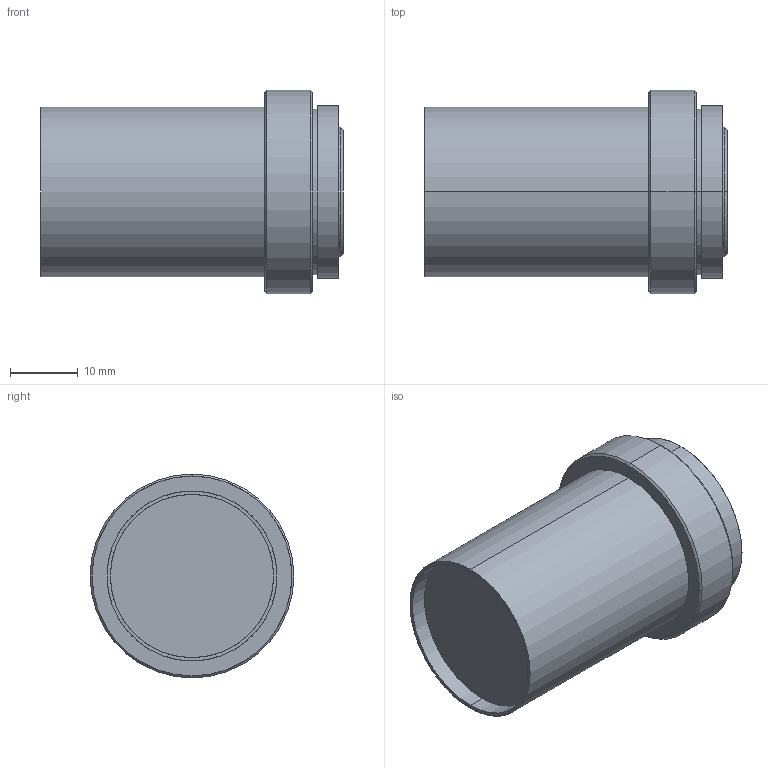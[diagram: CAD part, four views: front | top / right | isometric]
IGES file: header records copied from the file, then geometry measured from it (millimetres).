
Start section: SolidWorks IGES file using analytic representation for surfaces
Global section: file name: C:\Users\16255\Desktop\WWT118-0233-168S.IGS; native system: SolidWorks 2017; preprocessor: SolidWorks 2017; author: 16255; date: 210823.115446; units: millimetre
Bounding box: 44.58 x 30 x 30 mm (x, y, z)
Surface area: 5230.1 mm2 (no closed solid volume)
Topology: 0 solids, 0 shells, 25 faces, 520 edges, 520 vertices
Faces by surface type: revolution 18, bspline 7
